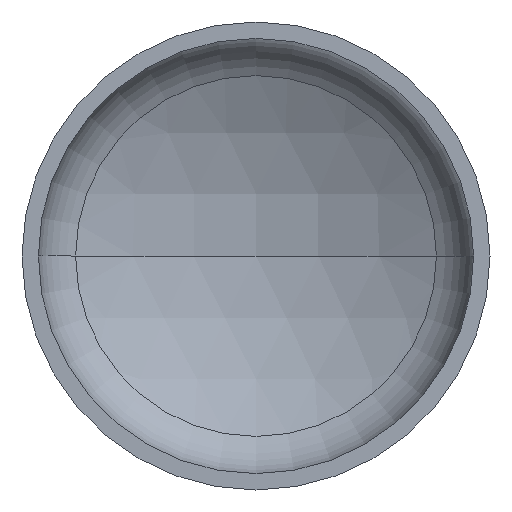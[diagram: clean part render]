
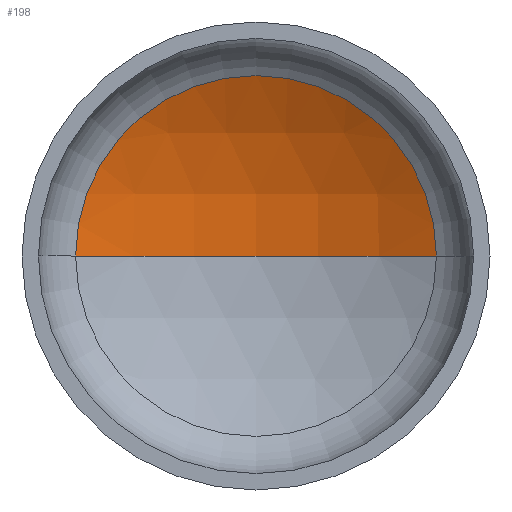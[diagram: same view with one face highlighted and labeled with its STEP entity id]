
A CAD part, front view. The second image highlights one B-rep face of the part: STEP entity #198.
In plain terms, the highlighted spherical face has radius 1120 mm.
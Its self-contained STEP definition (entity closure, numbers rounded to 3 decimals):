
#11 = ORIENTED_EDGE ( 'NONE', *, *, #348, .T. ) ;
#15 = AXIS2_PLACEMENT_3D ( 'NONE', #272, #225, #397 ) ;
#17 = AXIS2_PLACEMENT_3D ( 'NONE', #167, #164, #165 ) ;
#23 = CARTESIAN_POINT ( 'NONE',  ( 0., -643.05, 0. ) ) ;
#25 = DIRECTION ( 'NONE',  ( -1., 0., 0. ) ) ;
#31 = EDGE_LOOP ( 'NONE', ( #74, #11, #328 ) ) ;
#38 = AXIS2_PLACEMENT_3D ( 'NONE', #23, #121, #25 ) ;
#74 = ORIENTED_EDGE ( 'NONE', *, *, #386, .F. ) ;
#95 = VERTEX_POINT ( 'NONE', #295 ) ;
#118 = VERTEX_POINT ( 'NONE', #196 ) ;
#121 = DIRECTION ( 'NONE',  ( 0., 0., -1. ) ) ;
#128 = VERTEX_POINT ( 'NONE', #218 ) ;
#164 = DIRECTION ( 'NONE',  ( 0., -1., 0. ) ) ;
#165 = DIRECTION ( 'NONE',  ( 1., 0., 0. ) ) ;
#166 = FACE_OUTER_BOUND ( 'NONE', #31, .T. ) ;
#167 = CARTESIAN_POINT ( 'NONE',  ( 0., 338.404, 0. ) ) ;
#189 = CIRCLE ( 'NONE', #288, 1120. ) ;
#196 = CARTESIAN_POINT ( 'NONE',  ( 0., 476.95, 0. ) ) ;
#198 = ADVANCED_FACE ( 'NONE', ( #166 ), #229, .F. ) ;
#218 = CARTESIAN_POINT ( 'NONE',  ( -539.58, 338.404, 0. ) ) ;
#225 = DIRECTION ( 'NONE',  ( 0., 0., -1. ) ) ;
#229 = SPHERICAL_SURFACE ( 'NONE', #38, 1120. ) ;
#253 = DIRECTION ( 'NONE',  ( 1., 0., 0. ) ) ;
#272 = CARTESIAN_POINT ( 'NONE',  ( 0., -643.05, 0. ) ) ;
#288 = AXIS2_PLACEMENT_3D ( 'NONE', #300, #401, #253 ) ;
#295 = CARTESIAN_POINT ( 'NONE',  ( 539.58, 338.404, 0. ) ) ;
#300 = CARTESIAN_POINT ( 'NONE',  ( 0., -643.05, 0. ) ) ;
#328 = ORIENTED_EDGE ( 'NONE', *, *, #343, .T. ) ;
#337 = CIRCLE ( 'NONE', #17, 539.58 ) ;
#343 = EDGE_CURVE ( 'NONE', #95, #128, #337, .T. ) ;
#348 = EDGE_CURVE ( 'NONE', #118, #95, #400, .T. ) ;
#386 = EDGE_CURVE ( 'NONE', #118, #128, #189, .T. ) ;
#397 = DIRECTION ( 'NONE',  ( -1., 0., 0. ) ) ;
#400 = CIRCLE ( 'NONE', #15, 1120. ) ;
#401 = DIRECTION ( 'NONE',  ( 0., 0., 1. ) ) ;
